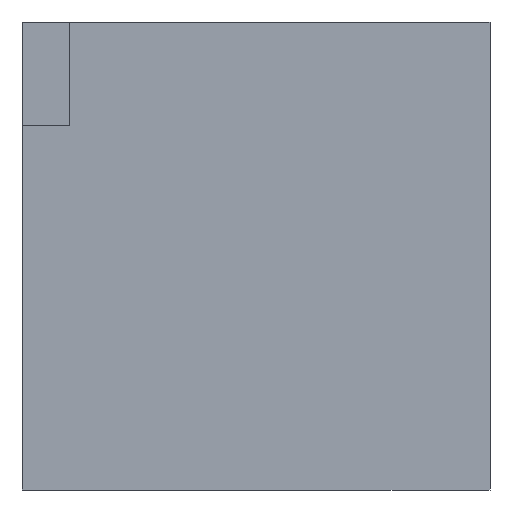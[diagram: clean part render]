
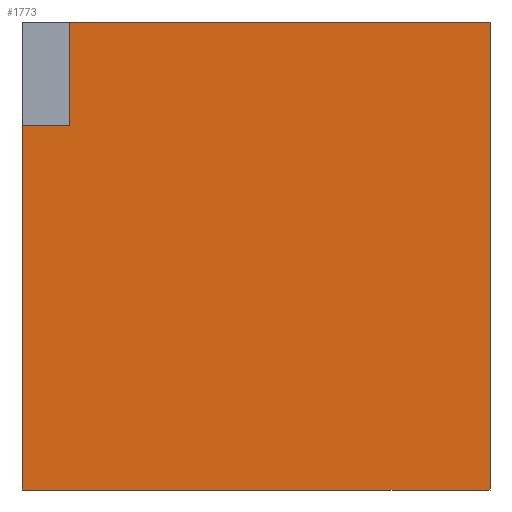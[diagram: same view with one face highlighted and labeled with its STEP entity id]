
A CAD part, front view. The second image highlights one B-rep face of the part: STEP entity #1773.
In plain terms, the highlighted planar face has unit normal (0, -1, 0).
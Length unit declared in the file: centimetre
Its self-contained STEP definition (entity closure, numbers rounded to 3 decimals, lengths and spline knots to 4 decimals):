
#15 = EDGE_CURVE ( 'NONE', #1352, #1065, #1485, .T. ) ;
#68 = CARTESIAN_POINT ( 'NONE',  ( 0., 0., 1000. ) ) ;
#82 = AXIS2_PLACEMENT_3D ( 'NONE', #68, #1667, #650 ) ;
#128 = EDGE_CURVE ( 'NONE', #708, #1332, #1468, .T. ) ;
#158 = VECTOR ( 'NONE', #1189, 100. ) ;
#248 = CARTESIAN_POINT ( 'NONE',  ( 102.5359, 0., 779.7076 ) ) ;
#282 = DIRECTION ( 'NONE',  ( 0., 0., 1. ) ) ;
#324 = VECTOR ( 'NONE', #1222, 100. ) ;
#352 = CARTESIAN_POINT ( 'NONE',  ( 1000., 0., 1000. ) ) ;
#441 = ORIENTED_EDGE ( 'NONE', *, *, #1843, .T. ) ;
#523 = VECTOR ( 'NONE', #692, 100. ) ;
#566 = CARTESIAN_POINT ( 'NONE',  ( 0., 0., 779.7076 ) ) ;
#612 = CARTESIAN_POINT ( 'NONE',  ( 0., 0., 1000. ) ) ;
#650 = DIRECTION ( 'NONE',  ( 0., 0., 1. ) ) ;
#671 = LINE ( 'NONE', #1249, #324 ) ;
#686 = EDGE_CURVE ( 'NONE', #708, #1397, #830, .T. ) ;
#692 = DIRECTION ( 'NONE',  ( 1., 0., 0. ) ) ;
#708 = VERTEX_POINT ( 'NONE', #999 ) ;
#758 = CARTESIAN_POINT ( 'NONE',  ( 0., 0., 0. ) ) ;
#775 = EDGE_CURVE ( 'NONE', #1397, #1185, #1698, .T. ) ;
#789 = EDGE_LOOP ( 'NONE', ( #1028, #1665, #1566, #1790, #441, #1688 ) ) ;
#830 = LINE ( 'NONE', #566, #523 ) ;
#846 = VECTOR ( 'NONE', #1033, 100. ) ;
#985 = VECTOR ( 'NONE', #1690, 100. ) ;
#999 = CARTESIAN_POINT ( 'NONE',  ( 0., 0., 779.7076 ) ) ;
#1028 = ORIENTED_EDGE ( 'NONE', *, *, #1411, .F. ) ;
#1030 = PLANE ( 'NONE',  #82 ) ;
#1033 = DIRECTION ( 'NONE',  ( 0., 0., -1. ) ) ;
#1065 = VERTEX_POINT ( 'NONE', #1433 ) ;
#1117 = LINE ( 'NONE', #1841, #985 ) ;
#1185 = VERTEX_POINT ( 'NONE', #1683 ) ;
#1189 = DIRECTION ( 'NONE',  ( 0., 0., -1. ) ) ;
#1222 = DIRECTION ( 'NONE',  ( 1., 0., 0. ) ) ;
#1249 = CARTESIAN_POINT ( 'NONE',  ( 0., 0., 0. ) ) ;
#1279 = VECTOR ( 'NONE', #282, 100. ) ;
#1332 = VERTEX_POINT ( 'NONE', #758 ) ;
#1352 = VERTEX_POINT ( 'NONE', #1440 ) ;
#1397 = VERTEX_POINT ( 'NONE', #248 ) ;
#1411 = EDGE_CURVE ( 'NONE', #1185, #1352, #1117, .T. ) ;
#1433 = CARTESIAN_POINT ( 'NONE',  ( 1000., 0., 0. ) ) ;
#1440 = CARTESIAN_POINT ( 'NONE',  ( 1000., 0., 1000. ) ) ;
#1468 = LINE ( 'NONE', #612, #158 ) ;
#1485 = LINE ( 'NONE', #352, #846 ) ;
#1566 = ORIENTED_EDGE ( 'NONE', *, *, #686, .F. ) ;
#1578 = CARTESIAN_POINT ( 'NONE',  ( 102.5359, 0., 779.7076 ) ) ;
#1665 = ORIENTED_EDGE ( 'NONE', *, *, #775, .F. ) ;
#1667 = DIRECTION ( 'NONE',  ( 0., 1., 0. ) ) ;
#1683 = CARTESIAN_POINT ( 'NONE',  ( 102.5359, 0., 1000. ) ) ;
#1688 = ORIENTED_EDGE ( 'NONE', *, *, #15, .F. ) ;
#1690 = DIRECTION ( 'NONE',  ( 1., 0., 0. ) ) ;
#1698 = LINE ( 'NONE', #1578, #1279 ) ;
#1744 = FACE_OUTER_BOUND ( 'NONE', #789, .T. ) ;
#1773 = ADVANCED_FACE ( 'NONE', ( #1744 ), #1030, .F. ) ;
#1790 = ORIENTED_EDGE ( 'NONE', *, *, #128, .T. ) ;
#1841 = CARTESIAN_POINT ( 'NONE',  ( 0., 0., 1000. ) ) ;
#1843 = EDGE_CURVE ( 'NONE', #1332, #1065, #671, .T. ) ;
